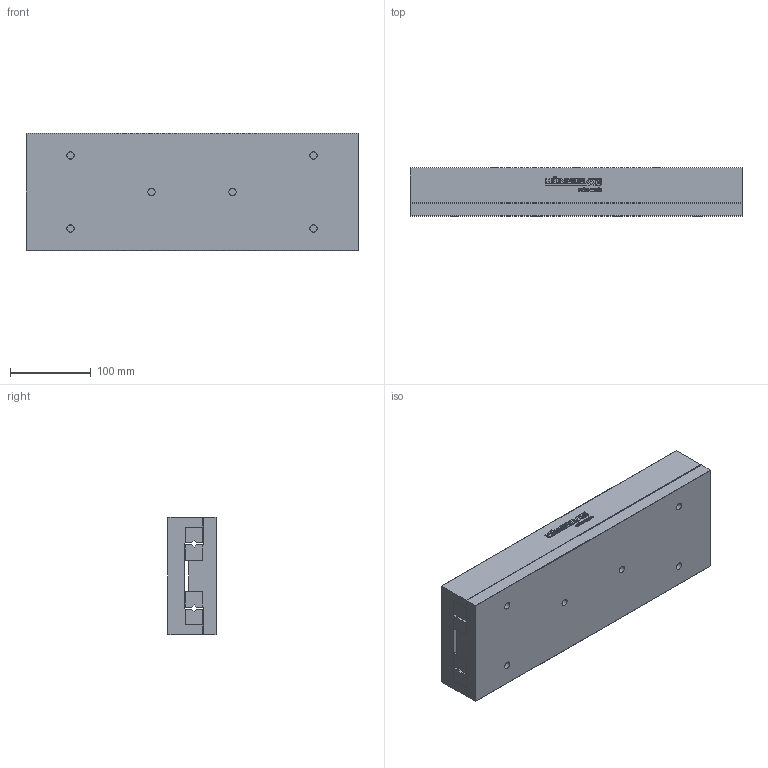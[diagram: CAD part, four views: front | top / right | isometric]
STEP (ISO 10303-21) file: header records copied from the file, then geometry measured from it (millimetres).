
FILE_DESCRIPTION(/* description */ ('STEP AP214'),/* implementation_level */ '2;1');
FILE_NAME(/* name */ 'NK 9-410-B(0)',/* time_stamp */ '2025-04-22T17:52:11+02:00',/* author */ ('License CC BY-ND 4.0'),/* organization */ ('CADENAS'),/* preprocessor_version */ 'ST-DEVELOPER v19.3',/* originating_system */ 'PARTsolutions',/* authorisation */ ' ');
FILE_SCHEMA (('AUTOMOTIVE_DESIGN {1 0 10303 214 3 1 1}'));
Length unit declared in the file: millimetre
Products named in the file (3): NK 9-410-B(0); NK 9-410-B_1; NK 9-410-B_2
Assembly tree (2 placements, depth 2):
  NK 9-410-B(0)
    NK 9-410-B_1
    NK 9-410-B_2
Bounding box: 410 x 60 x 145 mm (x, y, z)
Volume: 3398131.8 mm3; surface area: 417853.9 mm2
Topology: 2 solids, 2 shells, 603 faces, 1678 edges, 1104 vertices
Faces by surface type: cylinder 310, plane 281, cone 12
Full cylindrical faces by diameter (mm): 6.647 x6, 9 x6, 15 x6
Entity records: 19357 total; most frequent: DIRECTION 3492, CARTESIAN_POINT 3338, ORIENTED_EDGE 3276, EDGE_CURVE 1638, AXIS2_PLACEMENT_3D 1248, VERTEX_POINT 1094, LINE 996, VECTOR 996
